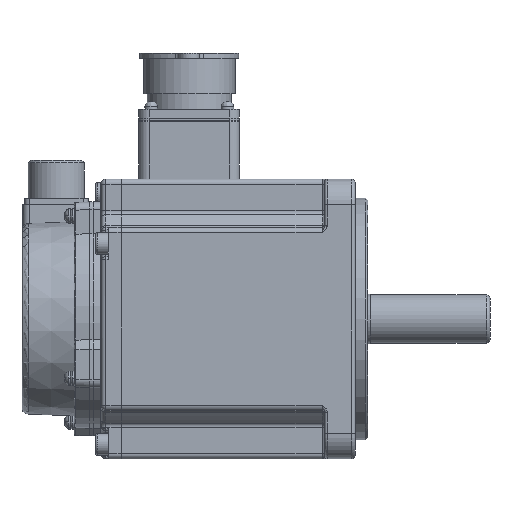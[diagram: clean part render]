
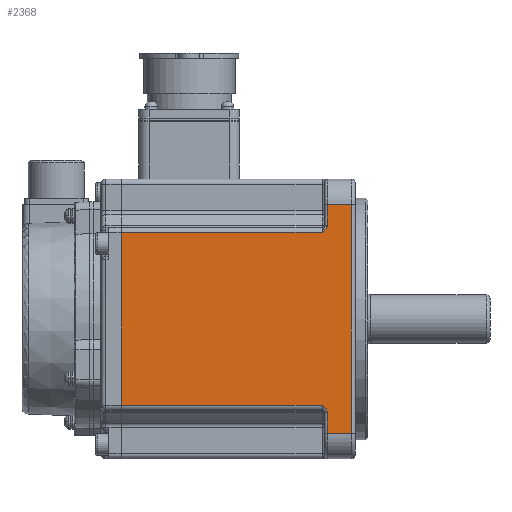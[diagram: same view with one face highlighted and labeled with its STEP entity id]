
A CAD part, left-side view. The second image highlights one B-rep face of the part: STEP entity #2368.
In plain terms, the highlighted planar face has unit normal (-1, 0, 0).
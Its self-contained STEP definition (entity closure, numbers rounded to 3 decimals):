
#1203=PLANE('',#19014);
#1550=B_SPLINE_CURVE_WITH_KNOTS('',3,(#29796,#29797,#29798,#29799,#29800,
#29801,#29802,#29803,#29804,#29805,#29806,#29807,#29808,#29809,#29810,#29811,
#29812,#29813,#29814),.UNSPECIFIED.,.F.,.F.,(4,3,3,3,3,3,4),(0.,0.002,
0.104,0.205,0.569,0.789,
1.),.UNSPECIFIED.);
#1551=B_SPLINE_CURVE_WITH_KNOTS('',3,(#29826,#29827,#29828,#29829,#29830,
#29831,#29832,#29833,#29834,#29835,#29836,#29837,#29838,#29839,#29840,#29841,
#29842,#29843,#29844),.UNSPECIFIED.,.F.,.F.,(4,3,3,3,3,3,4),(0.,0.211,
0.431,0.795,0.896,0.998,
1.),.UNSPECIFIED.);
#2368=ADVANCED_FACE('',(#3780),#1203,.T.);
#3780=FACE_OUTER_BOUND('',#5035,.T.);
#5035=EDGE_LOOP('',(#9698,#9699,#9700,#9701,#9702,#9703,#9704,#9705,#9706,
#9707));
#9698=ORIENTED_EDGE('',*,*,#14726,.T.);
#9699=ORIENTED_EDGE('',*,*,#14728,.F.);
#9700=ORIENTED_EDGE('',*,*,#14625,.T.);
#9701=ORIENTED_EDGE('',*,*,#14729,.T.);
#9702=ORIENTED_EDGE('',*,*,#14730,.T.);
#9703=ORIENTED_EDGE('',*,*,#14731,.T.);
#9704=ORIENTED_EDGE('',*,*,#14732,.T.);
#9705=ORIENTED_EDGE('',*,*,#14733,.T.);
#9706=ORIENTED_EDGE('',*,*,#14734,.T.);
#9707=ORIENTED_EDGE('',*,*,#14735,.T.);
#12595=VERTEX_POINT('',#29480);
#12596=VERTEX_POINT('',#29481);
#12673=VERTEX_POINT('',#29790);
#12674=VERTEX_POINT('',#29792);
#12675=VERTEX_POINT('',#29815);
#12676=VERTEX_POINT('',#29817);
#12677=VERTEX_POINT('',#29819);
#12678=VERTEX_POINT('',#29821);
#12679=VERTEX_POINT('',#29823);
#12680=VERTEX_POINT('',#29825);
#14625=EDGE_CURVE('',#12595,#12596,#16321,.T.);
#14726=EDGE_CURVE('',#12674,#12673,#16381,.T.);
#14728=EDGE_CURVE('',#12595,#12673,#16382,.T.);
#14729=EDGE_CURVE('',#12596,#12675,#1550,.T.);
#14730=EDGE_CURVE('',#12675,#12676,#16383,.T.);
#14731=EDGE_CURVE('',#12676,#12677,#16384,.T.);
#14732=EDGE_CURVE('',#12677,#12678,#16385,.T.);
#14733=EDGE_CURVE('',#12678,#12679,#16386,.T.);
#14734=EDGE_CURVE('',#12679,#12680,#16387,.T.);
#14735=EDGE_CURVE('',#12680,#12674,#1551,.T.);
#16321=LINE('',#29479,#17317);
#16381=LINE('',#29791,#17377);
#16382=LINE('',#29795,#17378);
#16383=LINE('',#29816,#17379);
#16384=LINE('',#29818,#17380);
#16385=LINE('',#29820,#17381);
#16386=LINE('',#29822,#17382);
#16387=LINE('',#29824,#17383);
#17317=VECTOR('',#23153,1.);
#17377=VECTOR('',#23331,1.);
#17378=VECTOR('',#23336,1.);
#17379=VECTOR('',#23337,1.);
#17380=VECTOR('',#23338,1.);
#17381=VECTOR('',#23339,1.);
#17382=VECTOR('',#23340,1.);
#17383=VECTOR('',#23341,1.);
#19014=AXIS2_PLACEMENT_3D('',#29845,#23342,#23343);
#23153=DIRECTION('',(0.,-1.,0.));
#23331=DIRECTION('',(0.,1.,0.));
#23336=DIRECTION('',(0.,0.,1.));
#23337=DIRECTION('',(0.,0.,-1.));
#23338=DIRECTION('',(0.,-1.,0.));
#23339=DIRECTION('',(0.,0.,1.));
#23340=DIRECTION('',(0.,1.,0.));
#23341=DIRECTION('',(0.,0.,-1.));
#23342=DIRECTION('',(-1.,0.,0.));
#23343=DIRECTION('',(0.,0.,-1.));
#29479=CARTESIAN_POINT('',(150.124,-63.778,-125.192));
#29480=CARTESIAN_POINT('',(150.124,13.922,-125.192));
#29481=CARTESIAN_POINT('',(150.124,-65.078,-125.192));
#29790=CARTESIAN_POINT('',(150.124,13.922,-57.192));
#29791=CARTESIAN_POINT('',(150.124,-63.778,-57.192));
#29792=CARTESIAN_POINT('',(150.124,-65.078,-57.192));
#29795=CARTESIAN_POINT('',(150.124,13.922,-91.192));
#29796=CARTESIAN_POINT('',(150.124,-65.078,-125.192));
#29797=CARTESIAN_POINT('',(150.124,-65.08,-125.194));
#29798=CARTESIAN_POINT('',(150.124,-65.083,-125.196));
#29799=CARTESIAN_POINT('',(150.124,-65.085,-125.197));
#29800=CARTESIAN_POINT('',(150.124,-65.185,-125.268));
#29801=CARTESIAN_POINT('',(150.124,-65.285,-125.339));
#29802=CARTESIAN_POINT('',(150.124,-65.384,-125.411));
#29803=CARTESIAN_POINT('',(150.124,-65.483,-125.482));
#29804=CARTESIAN_POINT('',(150.124,-65.581,-125.555));
#29805=CARTESIAN_POINT('',(150.124,-65.677,-125.631));
#29806=CARTESIAN_POINT('',(150.124,-66.02,-125.899));
#29807=CARTESIAN_POINT('',(150.124,-66.346,-126.204));
#29808=CARTESIAN_POINT('',(150.124,-66.594,-126.562));
#29809=CARTESIAN_POINT('',(150.124,-66.745,-126.78));
#29810=CARTESIAN_POINT('',(150.124,-66.87,-127.019));
#29811=CARTESIAN_POINT('',(150.124,-66.954,-127.271));
#29812=CARTESIAN_POINT('',(150.124,-67.034,-127.511));
#29813=CARTESIAN_POINT('',(150.124,-67.078,-127.767));
#29814=CARTESIAN_POINT('',(150.124,-67.078,-128.021));
#29815=CARTESIAN_POINT('',(150.124,-67.078,-128.021));
#29816=CARTESIAN_POINT('',(150.124,-67.078,-127.192));
#29817=CARTESIAN_POINT('',(150.124,-67.078,-136.192));
#29818=CARTESIAN_POINT('',(150.124,-78.078,-136.192));
#29819=CARTESIAN_POINT('',(150.124,-76.578,-136.192));
#29820=CARTESIAN_POINT('',(150.124,-76.578,-46.192));
#29821=CARTESIAN_POINT('',(150.124,-76.578,-46.192));
#29822=CARTESIAN_POINT('',(150.124,-78.078,-46.192));
#29823=CARTESIAN_POINT('',(150.124,-67.078,-46.192));
#29824=CARTESIAN_POINT('',(150.124,-67.078,-127.192));
#29825=CARTESIAN_POINT('',(150.124,-67.078,-54.364));
#29826=CARTESIAN_POINT('',(150.124,-67.078,-54.364));
#29827=CARTESIAN_POINT('',(150.124,-67.078,-54.617));
#29828=CARTESIAN_POINT('',(150.124,-67.034,-54.873));
#29829=CARTESIAN_POINT('',(150.124,-66.954,-55.114));
#29830=CARTESIAN_POINT('',(150.124,-66.87,-55.365));
#29831=CARTESIAN_POINT('',(150.124,-66.745,-55.605));
#29832=CARTESIAN_POINT('',(150.124,-66.594,-55.822));
#29833=CARTESIAN_POINT('',(150.124,-66.346,-56.18));
#29834=CARTESIAN_POINT('',(150.124,-66.02,-56.485));
#29835=CARTESIAN_POINT('',(150.124,-65.677,-56.754));
#29836=CARTESIAN_POINT('',(150.124,-65.581,-56.829));
#29837=CARTESIAN_POINT('',(150.124,-65.483,-56.902));
#29838=CARTESIAN_POINT('',(150.124,-65.384,-56.974));
#29839=CARTESIAN_POINT('',(150.124,-65.285,-57.046));
#29840=CARTESIAN_POINT('',(150.124,-65.185,-57.116));
#29841=CARTESIAN_POINT('',(150.124,-65.085,-57.187));
#29842=CARTESIAN_POINT('',(150.124,-65.083,-57.189));
#29843=CARTESIAN_POINT('',(150.124,-65.08,-57.19));
#29844=CARTESIAN_POINT('',(150.124,-65.078,-57.192));
#29845=CARTESIAN_POINT('',(150.124,-63.778,-127.192));
